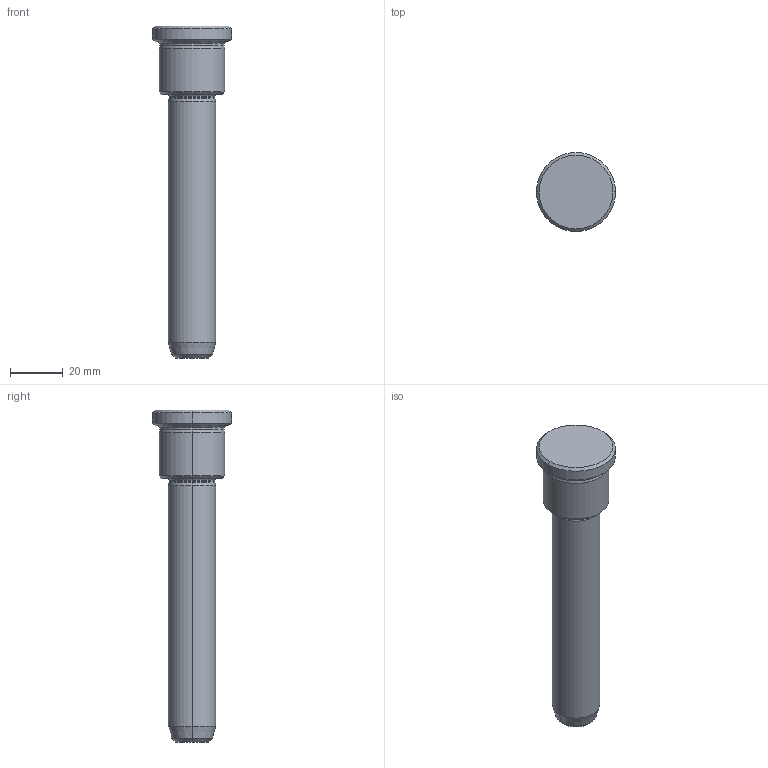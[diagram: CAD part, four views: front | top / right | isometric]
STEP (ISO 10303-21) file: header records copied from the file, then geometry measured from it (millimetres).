
FILE_DESCRIPTION (( 'STEP AP214' ), '1' );
FILE_NAME ('BRGC 18x26x100.STEP', '2019-12-19T10:13:11', ( 'August' ), ( '' ), 'SwSTEP 2.0', 'SolidWorks 2018', '' );
FILE_SCHEMA (( 'AUTOMOTIVE_DESIGN' ));
Length unit declared in the file: millimetre
Products named in the file (1): BRGC 18x26x100
Bounding box: 30 x 30 x 126 mm (x, y, z)
Volume: 39028.6 mm3; surface area: 8910.8 mm2
Topology: 1 solids, 1 shells, 36 faces, 70 edges, 38 vertices
Faces by surface type: cone 14, cylinder 10, torus 8, plane 4
Entity records: 946 total; most frequent: DIRECTION 190, CARTESIAN_POINT 145, ORIENTED_EDGE 140, AXIS2_PLACEMENT_3D 83, EDGE_CURVE 70, CIRCLE 46, VERTEX_POINT 38, EDGE_LOOP 38
